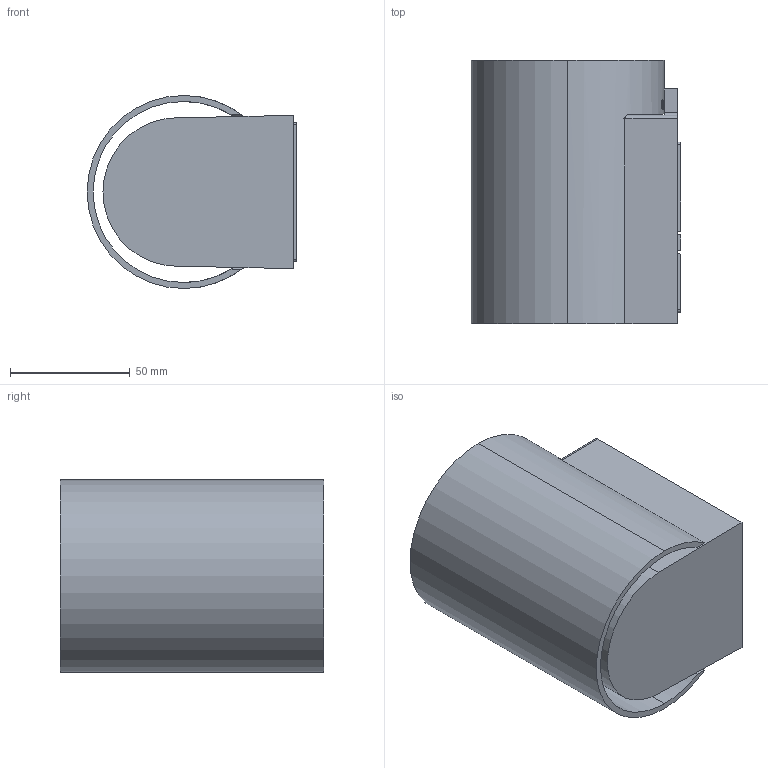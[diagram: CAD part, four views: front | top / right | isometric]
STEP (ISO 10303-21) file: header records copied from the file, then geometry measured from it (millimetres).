
FILE_DESCRIPTION(/* description */ (''),/* implementation_level */ '2;1');
FILE_NAME(/* name */ 'kov_1l_round_walllamp.step',/* time_stamp */ '2025-02-20T10:17:16+01:00',/* author */ ('RenataManzini'),/* organization */ (''),/* preprocessor_version */ 'ST-DEVELOPER v20',/* originating_system */ 'AutoCAD Mechanical',/* authorisation */ '');
FILE_SCHEMA (('AUTOMOTIVE_DESIGN { 1 0 10303 214 3 1 1 }'));
Length unit declared in the file: millimetre
Products named in the file (13): Product; Q1258; G0642; M4X08PINGTOULUOSI6J; M5X8JIMILUOSI; F0533; Q1259; Y04-0012; M0731; I0500; HKY0B14D316YGL3_1; HKY0B14D316YGL3_2; HKY0B14D316YGL3_4
Assembly tree (15 placements, depth 2):
  Product
    Q1258
    G0642
    M4X08PINGTOULUOSI6J  x2
    M5X8JIMILUOSI  x2
    F0533
    Q1259
    Y04-0012  x2
    M0731
    I0500
    HKY0B14D316YGL3_1
    HKY0B14D316YGL3_2
    HKY0B14D316YGL3_4
Bounding box: 87.6 x 110 x 80.6 mm (x, y, z)
Volume: 224105.2 mm3; surface area: 153643.2 mm2
Topology: 15 solids, 29 shells, 1470 faces, 3979 edges, 2545 vertices
Faces by surface type: plane 733, cylinder 295, cone 201, bspline 163, torus 60, sphere 18
Entity records: 58613 total; most frequent: CARTESIAN_POINT 25330, ORIENTED_EDGE 7215, DIRECTION 6364, EDGE_CURVE 3640, VERTEX_POINT 2353, LINE 2162, VECTOR 2162, AXIS2_PLACEMENT_3D 2101
